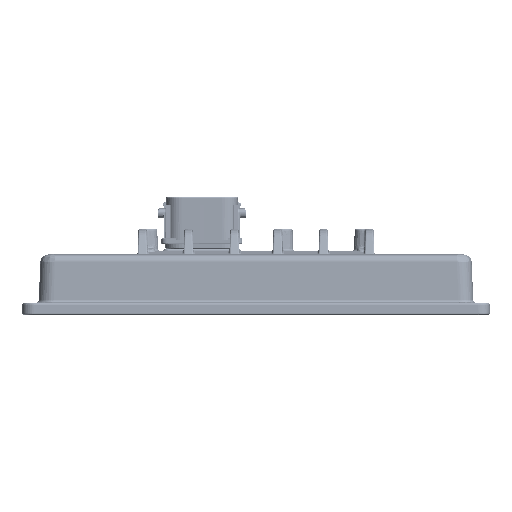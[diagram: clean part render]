
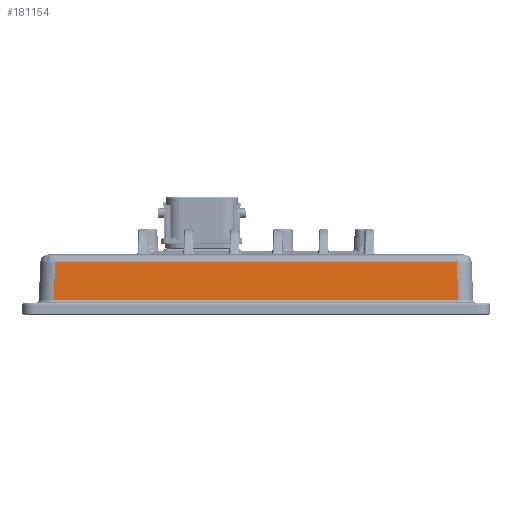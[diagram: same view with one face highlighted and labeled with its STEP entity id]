
A CAD part, left-side view. The second image highlights one B-rep face of the part: STEP entity #181154.
In plain terms, the highlighted planar face has unit normal (-0.999, 0, 0.044) as drawn and (0.999, 0, -0.044) by its records, which use the part's own axes.
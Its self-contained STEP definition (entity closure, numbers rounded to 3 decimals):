
#15488=PLANE('',#200182);
#27411=LINE('',#474563,#39371);
#27421=LINE('',#474757,#39381);
#27423=LINE('',#474794,#39383);
#27424=LINE('',#474795,#39384);
#39371=VECTOR('',#249752,10.);
#39381=VECTOR('',#249810,10.);
#39383=VECTOR('',#249820,10.);
#39384=VECTOR('',#249821,10.);
#54290=FACE_OUTER_BOUND('',#65623,.T.);
#65623=EDGE_LOOP('',(#169776,#169777,#169778,#169779));
#88740=VERTEX_POINT('',#474557);
#88741=VERTEX_POINT('',#474561);
#88750=VERTEX_POINT('',#474751);
#88751=VERTEX_POINT('',#474755);
#115753=EDGE_CURVE('',#88741,#88740,#27411,.T.);
#115778=EDGE_CURVE('',#88751,#88750,#27421,.T.);
#115782=EDGE_CURVE('',#88750,#88741,#27423,.T.);
#115783=EDGE_CURVE('',#88740,#88751,#27424,.T.);
#169776=ORIENTED_EDGE('',*,*,#115753,.F.);
#169777=ORIENTED_EDGE('',*,*,#115782,.F.);
#169778=ORIENTED_EDGE('',*,*,#115778,.F.);
#169779=ORIENTED_EDGE('',*,*,#115783,.F.);
#181154=ADVANCED_FACE('',(#54290),#15488,.T.);
#200182=AXIS2_PLACEMENT_3D('',#474793,#249818,#249819);
#249752=DIRECTION('',(0.,-1.,0.));
#249810=DIRECTION('',(0.,1.,0.));
#249818=DIRECTION('center_axis',(0.999,0.,
-0.044));
#249819=DIRECTION('ref_axis',(-0.044,0.,-0.999));
#249820=DIRECTION('',(-0.044,-0.044,-0.998));
#249821=DIRECTION('',(0.044,-0.044,0.998));
#474557=CARTESIAN_POINT('',(119.263,-74.266,-17.131));
#474561=CARTESIAN_POINT('',(119.263,74.266,-17.131));
#474563=CARTESIAN_POINT('',(119.263,-40.207,-17.131));
#474751=CARTESIAN_POINT('',(119.873,74.876,-3.156));
#474755=CARTESIAN_POINT('',(119.873,-74.876,-3.156));
#474757=CARTESIAN_POINT('',(119.873,-40.207,-3.156));
#474793=CARTESIAN_POINT('Origin',(119.915,-80.413,-2.2));
#474794=CARTESIAN_POINT('',(119.773,74.776,-5.459));
#474795=CARTESIAN_POINT('',(119.698,-74.701,-7.177));
